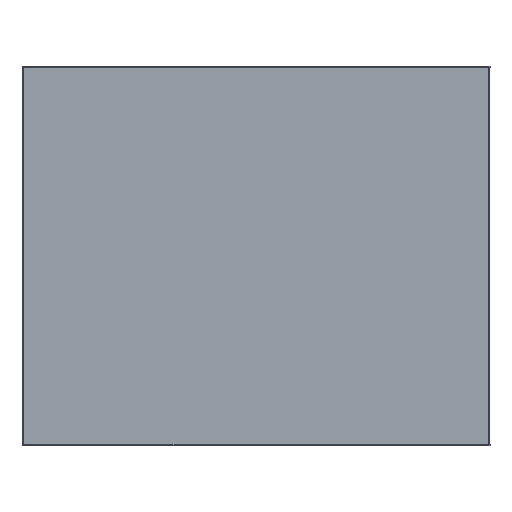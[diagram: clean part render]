
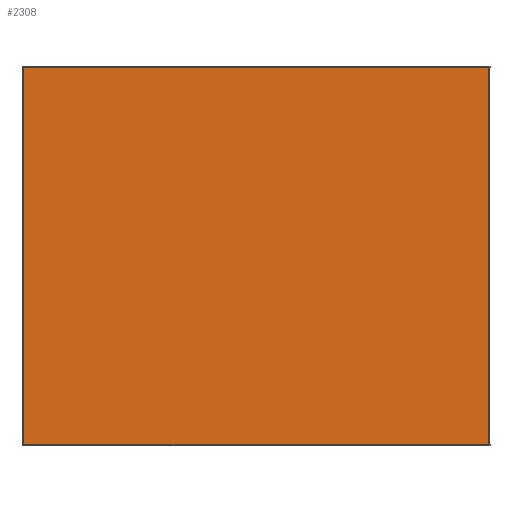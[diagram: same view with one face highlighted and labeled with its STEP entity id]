
A CAD part, top view. The second image highlights one B-rep face of the part: STEP entity #2308.
In plain terms, the highlighted planar face has unit normal (0, 0, 1) as drawn and (0, 1, 0) by its records, which use the part's own axes.
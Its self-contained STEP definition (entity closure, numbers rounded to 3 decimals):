
#104 = ORIENTED_EDGE ( 'NONE', *, *, #3500, .T. ) ;
#109 = ORIENTED_EDGE ( 'NONE', *, *, #3502, .T. ) ;
#110 = ORIENTED_EDGE ( 'NONE', *, *, #3508, .F. ) ;
#111 = ORIENTED_EDGE ( 'NONE', *, *, #3496, .T. ) ;
#112 = ORIENTED_EDGE ( 'NONE', *, *, #3503, .F. ) ;
#113 = ORIENTED_EDGE ( 'NONE', *, *, #3504, .T. ) ;
#115 = ORIENTED_EDGE ( 'NONE', *, *, #3506, .T. ) ;
#734 = VERTEX_POINT ( 'NONE', #969 ) ;
#740 = VERTEX_POINT ( 'NONE', #975 ) ;
#749 = VERTEX_POINT ( 'NONE', #984 ) ;
#751 = VERTEX_POINT ( 'NONE', #986 ) ;
#753 = VERTEX_POINT ( 'NONE', #988 ) ;
#766 = VERTEX_POINT ( 'NONE', #1001 ) ;
#794 = VERTEX_POINT ( 'NONE', #1029 ) ;
#969 = CARTESIAN_POINT ( 'NONE',  ( 318.68, 4., -259.604 ) ) ;
#975 = CARTESIAN_POINT ( 'NONE',  ( 318.68, 4., 259.604 ) ) ;
#984 = CARTESIAN_POINT ( 'NONE',  ( -318.68, 4., -259.604 ) ) ;
#986 = CARTESIAN_POINT ( 'NONE',  ( 319.604, 4., -258.68 ) ) ;
#988 = CARTESIAN_POINT ( 'NONE',  ( -319.604, 4., -258.68 ) ) ;
#1001 = CARTESIAN_POINT ( 'NONE',  ( -319.604, 4., 259.604 ) ) ;
#1029 = CARTESIAN_POINT ( 'NONE',  ( 319.604, 4., 258.68 ) ) ;
#1195 = CARTESIAN_POINT ( 'NONE',  ( 319.604, 4., -258.802 ) ) ;
#1196 = CARTESIAN_POINT ( 'NONE',  ( 319.604, 4., -258.68 ) ) ;
#1203 = CARTESIAN_POINT ( 'NONE',  ( 319.582, 4., -258.923 ) ) ;
#1204 = CARTESIAN_POINT ( 'NONE',  ( 319.493, 4., -259.149 ) ) ;
#1205 = CARTESIAN_POINT ( 'NONE',  ( 319.425, 4., -259.253 ) ) ;
#1206 = CARTESIAN_POINT ( 'NONE',  ( 319.254, 4., -259.425 ) ) ;
#1207 = CARTESIAN_POINT ( 'NONE',  ( 319.15, 4., -259.493 ) ) ;
#1208 = CARTESIAN_POINT ( 'NONE',  ( 318.924, 4., -259.582 ) ) ;
#1209 = CARTESIAN_POINT ( 'NONE',  ( 318.802, 4., -259.604 ) ) ;
#1210 = CARTESIAN_POINT ( 'NONE',  ( 318.68, 4., -259.604 ) ) ;
#1211 = CARTESIAN_POINT ( 'NONE',  ( 318.802, 4., 259.604 ) ) ;
#1222 = CARTESIAN_POINT ( 'NONE',  ( 318.68, 4., 259.604 ) ) ;
#1225 = CARTESIAN_POINT ( 'NONE',  ( 319.604, 4., 1940.789 ) ) ;
#1226 = DIRECTION ( 'NONE',  ( 0., 0., -1. ) ) ;
#1425 = CARTESIAN_POINT ( 'NONE',  ( -318.802, 4., -259.604 ) ) ;
#1426 = CARTESIAN_POINT ( 'NONE',  ( -318.68, 4., -259.604 ) ) ;
#1427 = CARTESIAN_POINT ( 'NONE',  ( 318.923, 4., 259.582 ) ) ;
#1428 = CARTESIAN_POINT ( 'NONE',  ( 319.149, 4., 259.493 ) ) ;
#1429 = CARTESIAN_POINT ( 'NONE',  ( 319.253, 4., 259.425 ) ) ;
#1430 = CARTESIAN_POINT ( 'NONE',  ( 319.425, 4., 259.254 ) ) ;
#1431 = CARTESIAN_POINT ( 'NONE',  ( 319.493, 4., 259.15 ) ) ;
#1432 = CARTESIAN_POINT ( 'NONE',  ( 319.582, 4., 258.924 ) ) ;
#1433 = CARTESIAN_POINT ( 'NONE',  ( 319.604, 4., 258.802 ) ) ;
#1434 = CARTESIAN_POINT ( 'NONE',  ( 319.604, 4., 258.68 ) ) ;
#1435 = CARTESIAN_POINT ( 'NONE',  ( 1430.294, 4., 259.604 ) ) ;
#1436 = DIRECTION ( 'NONE',  ( -1., 0., 0. ) ) ;
#1439 = CARTESIAN_POINT ( 'NONE',  ( -318.923, 4., -259.582 ) ) ;
#1440 = CARTESIAN_POINT ( 'NONE',  ( -319.149, 4., -259.493 ) ) ;
#1441 = CARTESIAN_POINT ( 'NONE',  ( -319.253, 4., -259.425 ) ) ;
#1442 = CARTESIAN_POINT ( 'NONE',  ( -319.425, 4., -259.254 ) ) ;
#1443 = CARTESIAN_POINT ( 'NONE',  ( -319.493, 4., -259.15 ) ) ;
#1444 = CARTESIAN_POINT ( 'NONE',  ( -319.582, 4., -258.924 ) ) ;
#1445 = CARTESIAN_POINT ( 'NONE',  ( -319.604, 4., -258.802 ) ) ;
#1446 = CARTESIAN_POINT ( 'NONE',  ( -319.604, 4., -258.68 ) ) ;
#1447 = CARTESIAN_POINT ( 'NONE',  ( 1430.294, 4., -259.604 ) ) ;
#1448 = DIRECTION ( 'NONE',  ( -1., 0., 0. ) ) ;
#1450 = CARTESIAN_POINT ( 'NONE',  ( -319.604, 4., 1291.283 ) ) ;
#1454 = DIRECTION ( 'NONE',  ( 0., 0., -1. ) ) ;
#1719 = EDGE_LOOP ( 'NONE', ( #115, #113, #110, #112, #109, #104, #111 ) ) ;
#1870 = LINE ( 'NONE', #1450, #1885 ) ;
#1876 = LINE ( 'NONE', #1225, #1879 ) ;
#1879 = VECTOR ( 'NONE', #1226, 1000. ) ;
#1881 = LINE ( 'NONE', #1435, #1882 ) ;
#1882 = VECTOR ( 'NONE', #1436, 1000. ) ;
#1883 = LINE ( 'NONE', #1447, #1884 ) ;
#1884 = VECTOR ( 'NONE', #1448, 1000. ) ;
#1885 = VECTOR ( 'NONE', #1454, 1000. ) ;
#2150 = FACE_OUTER_BOUND ( 'NONE', #1719, .T. ) ;
#2308 = ADVANCED_FACE ( 'NONE', ( #2150 ), #5206, .F. ) ;
#2946 = AXIS2_PLACEMENT_3D ( 'NONE', #5204, #5209, #5210 ) ;
#3496 = EDGE_CURVE ( 'NONE', #751, #734, #5600, .T. ) ;
#3500 = EDGE_CURVE ( 'NONE', #794, #751, #1876, .T. ) ;
#3502 = EDGE_CURVE ( 'NONE', #740, #794, #5602, .T. ) ;
#3503 = EDGE_CURVE ( 'NONE', #740, #766, #1881, .T. ) ;
#3504 = EDGE_CURVE ( 'NONE', #749, #753, #5603, .T. ) ;
#3506 = EDGE_CURVE ( 'NONE', #734, #749, #1883, .T. ) ;
#3508 = EDGE_CURVE ( 'NONE', #766, #753, #1870, .T. ) ;
#5204 = CARTESIAN_POINT ( 'NONE',  ( 0., 4., 0. ) ) ;
#5206 = PLANE ( 'NONE',  #2946 ) ;
#5209 = DIRECTION ( 'NONE',  ( 0., -1., 0. ) ) ;
#5210 = DIRECTION ( 'NONE',  ( 0., 0., -1. ) ) ;
#5600 = B_SPLINE_CURVE_WITH_KNOTS ( 'NONE', 3,
 ( #1196, #1195, #1203, #1204, #1205, #1206, #1207, #1208, #1209, #1210 ),
 .UNSPECIFIED., .F., .F.,
 ( 4, 2, 2, 2, 4 ),
 ( 0., 0., 0.001, 0.001, 0.001 ),
 .UNSPECIFIED. ) ;
#5602 = B_SPLINE_CURVE_WITH_KNOTS ( 'NONE', 3,
 ( #1222, #1211, #1427, #1428, #1429, #1430, #1431, #1432, #1433, #1434 ),
 .UNSPECIFIED., .F., .F.,
 ( 4, 2, 2, 2, 4 ),
 ( 0., 0., 0.001, 0.001, 0.001 ),
 .UNSPECIFIED. ) ;
#5603 = B_SPLINE_CURVE_WITH_KNOTS ( 'NONE', 3,
 ( #1426, #1425, #1439, #1440, #1441, #1442, #1443, #1444, #1445, #1446 ),
 .UNSPECIFIED., .F., .F.,
 ( 4, 2, 2, 2, 4 ),
 ( 0., 0., 0.001, 0.001, 0.001 ),
 .UNSPECIFIED. ) ;
